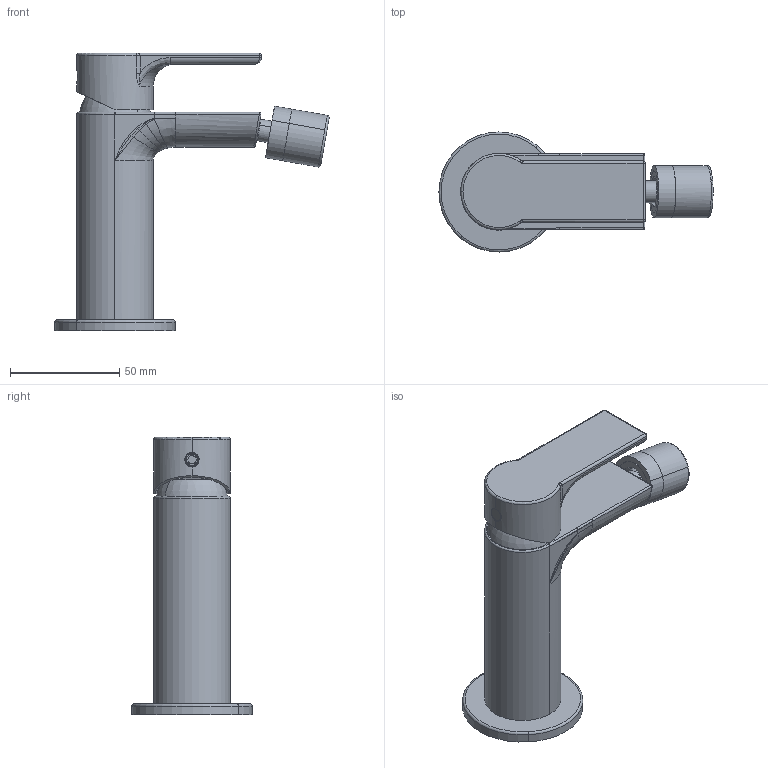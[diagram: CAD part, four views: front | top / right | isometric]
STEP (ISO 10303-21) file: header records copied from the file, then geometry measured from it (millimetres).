
FILE_DESCRIPTION (( 'STEP AP203' ), '1' );
FILE_NAME ('JAG94D.STEP', '2024-09-03T07:38:29', ( '' ), ( '' ), 'SwSTEP 2.0', 'SolidWorks 2023', '' );
FILE_SCHEMA (( 'CONFIG_CONTROL_DESIGN' ));
Length unit declared in the file: millimetre
Products named in the file (12): C47.00.0023.01; CORPO BIDET  100; JAG94D; CSK-011; MANIGLIA JAGO'' 2; CSK-M24X1; ZS-M28X1XL8; EU0824_ZA; YM-28; PRT0003; PD-11X7X2_5; 12X1
Assembly tree (11 placements, depth 2):
  JAG94D
    CORPO BIDET  100
    PRT0003
    YM-28
    12X1
    CSK-011
    CSK-M24X1
    PD-11X7X2_5
    MANIGLIA JAGO'' 2
    ZS-M28X1XL8
    EU0824_ZA
    C47.00.0023.01
Bounding box: 125.53 x 55 x 127.06 mm (x, y, z)
Volume: 24132.7 mm3; surface area: 72777.9 mm2
Topology: 7 solids, 27 shells, 2983 faces, 8689 edges, 5753 vertices
Faces by surface type: plane 2557, cylinder 240, bspline 112, cone 56, torus 14, sphere 4
Entity records: 111713 total; most frequent: CARTESIAN_POINT 32847, ORIENTED_EDGE 17281, DIRECTION 13264, EDGE_CURVE 8666, VECTOR 6028, LINE 6028, VERTEX_POINT 5751, EDGE_LOOP 4229
